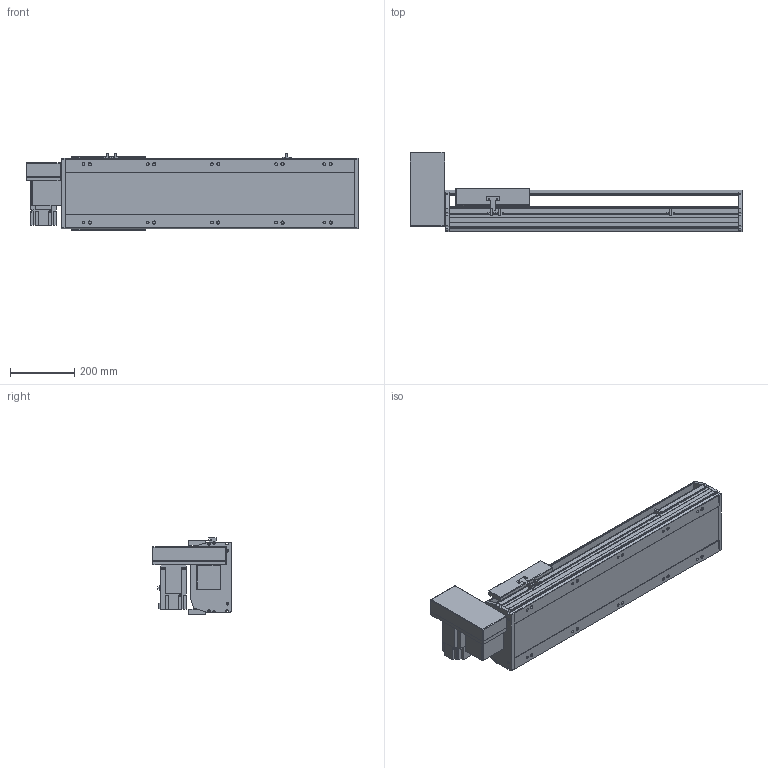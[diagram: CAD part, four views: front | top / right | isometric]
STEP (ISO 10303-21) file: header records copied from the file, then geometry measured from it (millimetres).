
FILE_DESCRIPTION(/* description */ ('STEP AP214'),/* implementation_level */ '2;1');
FILE_NAME(/* name */ 'PBS220-P40-S550-RU-T75-C1-N(0)',/* time_stamp */ '2022-06-13T02:50:19+02:00',/* author */ ('License CC BY-ND 4.0'),/* organization */ ('CADENAS'),/* preprocessor_version */ 'ST-DEVELOPER v18.102',/* originating_system */ 'PARTsolutions',/* authorisation */ ' ');
FILE_SCHEMA (('AUTOMOTIVE_DESIGN {1 0 10303 214 3 1 1}'));
Length unit declared in the file: millimetre
Products named in the file (7): PBS220-P40-S550-RU-T75-C1-N(0); PBS220_sensor; PBS220_plant; PBS220_sliser; T75-p1; PBS220T-RU_motors; PBS220-S550()_body
Assembly tree (8 placements, depth 2):
  PBS220-P40-S550-RU-T75-C1-N(0)
    PBS220_sensor  x3
    PBS220_plant
    PBS220_sliser
    T75-p1
    PBS220T-RU_motors
    PBS220-S550()_body
Bounding box: 1034 x 247 x 238.5 mm (x, y, z)
Volume: 15398896 mm3; surface area: 1583985.5 mm2
Topology: 8 solids, 8 shells, 878 faces, 2312 edges, 1504 vertices
Faces by surface type: plane 586, cylinder 258, cone 34
Full cylindrical faces by diameter (mm): 2.013 x4, 4.5 x14, 4.917 x4, 6 x7, 6.647 x8, 8 x10, 8.376 x10, 8.5 x10, 10 x6, 14 x10, 38 x2, 40 x1, 70 x1
Entity records: 24693 total; most frequent: CARTESIAN_POINT 4294, DIRECTION 4293, ORIENTED_EDGE 3998, EDGE_CURVE 1999, AXIS2_PLACEMENT_3D 1477, VERTEX_POINT 1368, LINE 1339, VECTOR 1339
